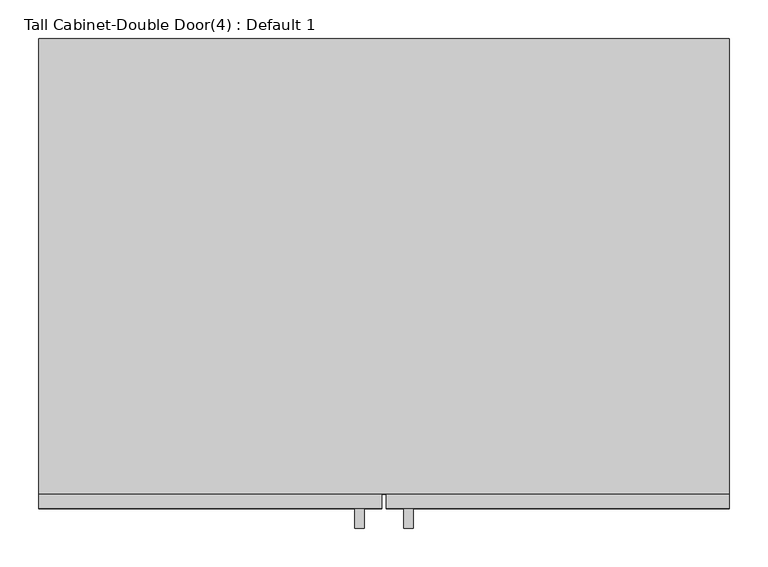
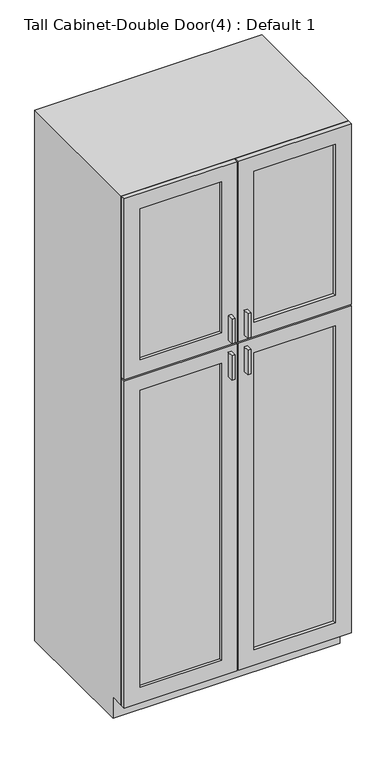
"""IFC4 building model written with IfcOpenShell, lengths in millimetres: furniture geometry, Tall Cabinet-Double Door(4) : Default 1."""

from ifc_helpers import new_model, si_unit, frame, origin, place, context, project, spatial, polyline, outline, extrude, faceted_brep, source, transform, mapped, element, save


def tall_cabinet_double_door_4_default_1_13441492(model_context):
    return source(origin(), model_context, "Body", "SolidModel", [
        faceted_brep([(466.4127049, -590.55, 90.4875), (466.4127049, -590.55, 2209.8), (-428.9372951, -590.55, 2209.8), (-428.9372951, -590.55, 90.4875), (447.3627049, -590.55, 2190.75), (447.3627049, -590.55, 109.5375), (-409.8872951, -590.55, 109.5375), (-409.8872951, -590.55, 2190.75), (-428.9372951, 0.0, 2209.8), (466.4127049, 0.0, 2209.8), (466.4127049, 0.0, 1.5875), (-428.9372951, 0.0, 1.5875), (447.3627049, 0.0, 2190.75), (-409.8872951, 0.0, 2190.75), (-409.8872951, 0.0, 109.5375), (447.3627049, 0.0, 109.5375), (466.4127049, -533.4, 90.4875), (466.4127049, -533.4, 1.5875), (-428.9372951, -533.4, 1.5875), (-428.9372951, -533.4, 90.4875)], [[[0, 1, 2, 3], [4, 5, 6, 7]], [[8, 9, 10, 11], [12, 13, 14, 15]], [[1, 0, 16, 17, 10, 9]], [[2, 1, 9, 8]], [[3, 2, 8, 11, 18, 19]], [[0, 3, 19, 16]], [[5, 4, 12, 15]], [[6, 5, 15, 14]], [[7, 6, 14, 13]], [[4, 7, 13, 12]], [[10, 17, 18, 11]], [[18, 17, 16, 19]]]),
        extrude(outline(polyline([(-6.6622951, -635.0), (-19.1945267, -635.0), (-19.1945267, -609.6), (-6.6622951, -609.6), (-6.6622951, -635.0)])), frame((0.0, 0.0, 1479.7480367), z_axis=(0.0, 0.0, 1.0), x_axis=(1.0, 0.0, 0.0)), (0.0, 0.0, 1.0), 101.6),
        extrude(outline(polyline([(56.6699365, -635.0), (44.1377049, -635.0), (44.1377049, -609.6), (56.6699365, -609.6), (56.6699365, -635.0)])), frame((0.0, 0.0, 1479.7480367), z_axis=(0.0, 0.0, 1.0), x_axis=(1.0, 0.0, 0.0)), (0.0, 0.0, 1.0), 101.6),
        extrude(outline(polyline([(-6.6622951, -635.0), (-19.1945267, -635.0), (-19.1945267, -609.6), (-6.6622951, -609.6), (-6.6622951, -635.0)])), frame((0.0, 0.0, 1327.3480367), z_axis=(0.0, 0.0, 1.0), x_axis=(1.0, 0.0, 0.0)), (0.0, 0.0, 1.0), 101.6),
        extrude(outline(polyline([(56.6699365, -635.0), (44.1377049, -635.0), (44.1377049, -609.6), (56.6699365, -609.6), (56.6699365, -635.0)])), frame((0.0, 0.0, 1327.3480367), z_axis=(0.0, 0.0, 1.0), x_axis=(1.0, 0.0, 0.0)), (0.0, 0.0, 1.0), 101.6),
        extrude(outline(polyline([(-44.7622951, -596.9), (-365.4372951, -596.9), (-365.4372951, -590.55), (-44.7622951, -590.55), (-44.7622951, -596.9)])), frame((0.0, 0.0, 1517.8480367), z_axis=(0.0, 0.0, 1.0), x_axis=(1.0, 0.0, 0.0)), (0.0, 0.0, 1.0), 628.4519633),
        extrude(outline(polyline([(402.9127049, -596.9), (82.2377049, -596.9), (82.2377049, -590.55), (402.9127049, -590.55), (402.9127049, -596.9)])), frame((0.0, 0.0, 1517.8480367), z_axis=(0.0, 0.0, 1.0), x_axis=(1.0, 0.0, 0.0)), (0.0, 0.0, 1.0), 628.4519633),
        extrude(outline(polyline([(-44.7622951, -596.9), (-365.4372951, -596.9), (-365.4372951, -590.55), (-44.7622951, -590.55), (-44.7622951, -596.9)])), frame((0.0, 0.0, 153.9875), z_axis=(0.0, 0.0, 1.0), x_axis=(1.0, 0.0, 0.0)), (0.0, 0.0, 1.0), 1236.8605367),
        extrude(outline(polyline([(402.9127049, -596.9), (82.2377049, -596.9), (82.2377049, -590.55), (402.9127049, -590.55), (402.9127049, -596.9)])), frame((0.0, 0.0, 153.9875), z_axis=(0.0, 0.0, 1.0), x_axis=(1.0, 0.0, 0.0)), (0.0, 0.0, 1.0), 1236.8605367),
        extrude(outline(polyline([(2209.8, 15.5627049), (2209.8, -428.9372951), (1457.5230367, -428.9372951), (1457.5230367, 15.5627049), (2209.8, 15.5627049)]), holes=[polyline([(2146.3, -44.7622951), (1517.8480367, -44.7622951), (1517.8480367, -365.4372951), (2146.3, -365.4372951), (2146.3, -44.7622951)])]), frame((0.0, -609.6, 0.0), z_axis=(0.0, 1.0, 0.0), x_axis=(0.0, 0.0, 1.0)), (0.0, 0.0, 1.0), 19.05),
        extrude(outline(polyline([(2209.8, 21.9127049), (1457.5230367, 21.9127049), (1457.5230367, 466.4127049), (2209.8, 466.4127049), (2209.8, 21.9127049)]), holes=[polyline([(2146.3, 402.9127049), (1517.8480367, 402.9127049), (1517.8480367, 82.2377049), (2146.3, 82.2377049), (2146.3, 402.9127049)])]), frame((0.0, -609.6, 0.0), z_axis=(0.0, 1.0, 0.0), x_axis=(0.0, 0.0, 1.0)), (0.0, 0.0, 1.0), 19.05),
        extrude(outline(polyline([(90.4875, 21.9127049), (90.4875, 466.4127049), (1451.1730367, 466.4127049), (1451.1730367, 21.9127049), (90.4875, 21.9127049)]), holes=[polyline([(1390.8480367, 82.2377049), (1390.8480367, 402.9127049), (153.9875, 402.9127049), (153.9875, 82.2377049), (1390.8480367, 82.2377049)])]), frame((0.0, -609.6, 0.0), z_axis=(0.0, 1.0, 0.0), x_axis=(0.0, 0.0, 1.0)), (0.0, 0.0, 1.0), 19.05),
        extrude(outline(polyline([(90.4875, 15.5627049), (1451.1730367, 15.5627049), (1451.1730367, -428.9372951), (90.4875, -428.9372951), (90.4875, 15.5627049)]), holes=[polyline([(1390.8480367, -44.7622951), (153.9875, -44.7622951), (153.9875, -365.4372951), (1390.8480367, -365.4372951), (1390.8480367, -44.7622951)])]), frame((0.0, -609.6, 0.0), z_axis=(0.0, 1.0, 0.0), x_axis=(0.0, 0.0, 1.0)), (0.0, 0.0, 1.0), 19.05),
        extrude(outline(polyline([(447.3627049, -19.05), (-409.8872951, -19.05), (-409.8872951, 0.0), (447.3627049, 0.0), (447.3627049, -19.05)])), frame((0.0, 0.0, 109.5375), z_axis=(0.0, 0.0, 1.0), x_axis=(1.0, 0.0, 0.0)), (0.0, 0.0, 1.0), 2081.2125),
    ])


if __name__ == "__main__":
    model = new_model("IFC4")
    model_context = context("Model", 3, world=origin())
    ifc_project = project(units=[si_unit("LENGTHUNIT", "METRE", prefix="MILLI")], contexts=[model_context])
    site = spatial("IfcSite", under=ifc_project)
    building = spatial("IfcBuilding", under=site)
    placement = place(None, origin())
    tall_cabinet_double_door_4_default_1_shape = tall_cabinet_double_door_4_default_1_13441492(model_context)
    element("IfcFurniture", 1, ObjectType="Tall Cabinet-Double Door(4) : Default 1", at=placement, inside=building, context=model_context, shape_type="MappedRepresentation", body=[
        mapped(tall_cabinet_double_door_4_default_1_shape, transform((0.0, 0.0, 0.0), x_axis=(1.0, 0.0, 0.0), y_axis=(0.0, 1.0, 0.0), z_axis=(0.0, 0.0, 1.0))),
    ])
    save(model, "model.ifc")
